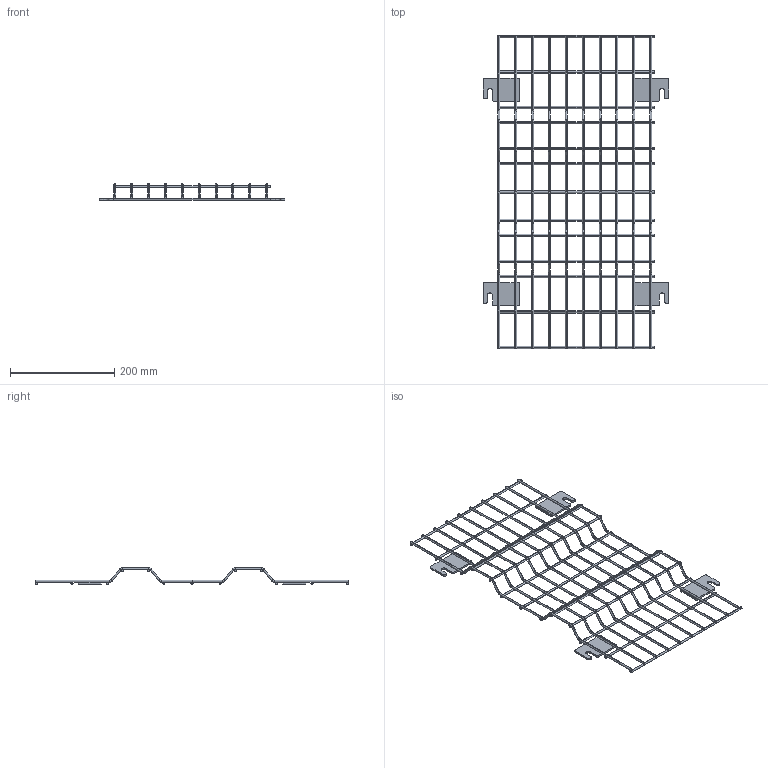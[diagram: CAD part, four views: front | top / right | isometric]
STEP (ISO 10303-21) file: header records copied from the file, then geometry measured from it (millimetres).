
FILE_DESCRIPTION (( 'STEP AP203' ), '1' );
FILE_NAME ('Frameless Panel 300 x 600.STEP', '2023-09-15T16:49:57', ( '' ), ( '' ), 'SwSTEP 2.0', 'SolidWorks 2023', '' );
FILE_SCHEMA (( 'CONFIG_CONTROL_DESIGN' ));
Length unit declared in the file: millimetre
Products named in the file (1): Frameless Panel 300 x 600
Bounding box: 356 x 600 x 32 mm (x, y, z)
Volume: 169804.1 mm3; surface area: 156839.1 mm2
Topology: 27 solids, 27 shells, 496 faces, 986 edges, 544 vertices
Faces by surface type: cylinder 254, torus 160, plane 82
Entity records: 12743 total; most frequent: DIRECTION 2628, CARTESIAN_POINT 2027, ORIENTED_EDGE 1972, AXIS2_PLACEMENT_3D 1145, EDGE_CURVE 986, CIRCLE 648, VERTEX_POINT 544, ADVANCED_FACE 496
